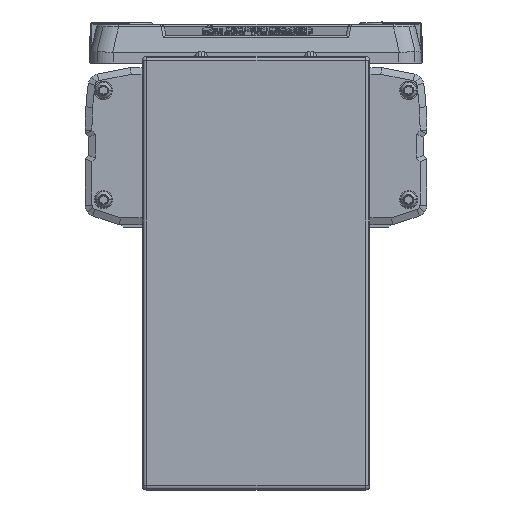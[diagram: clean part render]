
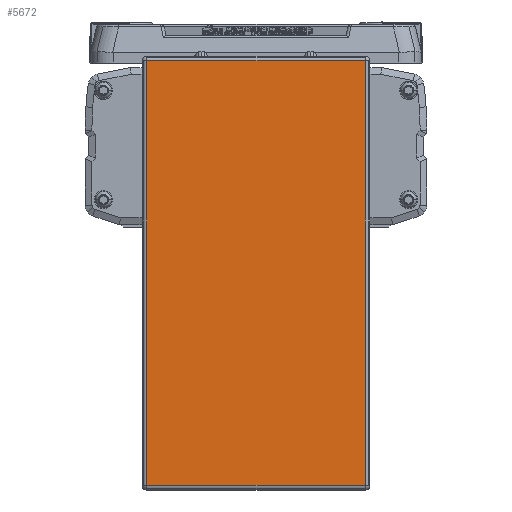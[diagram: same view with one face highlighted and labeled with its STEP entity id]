
A CAD part, left-side view. The second image highlights one B-rep face of the part: STEP entity #5672.
In plain terms, the highlighted planar face has unit normal (-1, 0, 0).
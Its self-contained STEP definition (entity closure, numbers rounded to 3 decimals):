
#5672=ADVANCED_FACE('',(#11921),#11922,.T.);
#11921=FACE_OUTER_BOUND('',#20199,.T.);
#11922=PLANE('',#20200);
#20199=EDGE_LOOP('',(#36287,#36288,#36289,#36290));
#20200=AXIS2_PLACEMENT_3D('',#36291,#36292,#36293);
#36287=ORIENTED_EDGE('',*,*,#42662,.F.);
#36288=ORIENTED_EDGE('',*,*,#43161,.F.);
#36289=ORIENTED_EDGE('',*,*,#48522,.F.);
#36290=ORIENTED_EDGE('',*,*,#48075,.F.);
#36291=CARTESIAN_POINT('',(-45.,0.,-64.2));
#36292=DIRECTION('',(-1.0,0.,0.));
#36293=DIRECTION('',(0.,1.0,0.));
#42662=EDGE_CURVE('',#50912,#50914,#50915,.T.);
#43161=EDGE_CURVE('',#51792,#50912,#51794,.T.);
#48075=EDGE_CURVE('',#50914,#50042,#59126,.T.);
#48522=EDGE_CURVE('',#50042,#51792,#59658,.T.);
#50042=VERTEX_POINT('',#61426);
#50912=VERTEX_POINT('',#62608);
#50914=VERTEX_POINT('',#62610);
#50915=LINE('',#62611,#62612);
#51792=VERTEX_POINT('',#63762);
#51794=LINE('',#63764,#63765);
#59126=LINE('',#74597,#74598);
#59658=LINE('',#75482,#75483);
#61426=CARTESIAN_POINT('',(-45.,-48.,-157.4));
#62608=CARTESIAN_POINT('',(-45.,48.,29.));
#62610=CARTESIAN_POINT('',(-45.,-48.,29.));
#62611=CARTESIAN_POINT('',(-45.,0.,29.));
#62612=VECTOR('',#77977,10.0);
#63762=CARTESIAN_POINT('',(-45.,48.,-157.4));
#63764=CARTESIAN_POINT('',(-45.,48.,-64.2));
#63765=VECTOR('',#78705,10.0);
#74597=CARTESIAN_POINT('',(-45.,-48.,-64.2));
#74598=VECTOR('',#85175,10.0);
#75482=CARTESIAN_POINT('',(-45.,0.,-157.4));
#75483=VECTOR('',#85653,10.0);
#77977=DIRECTION('',(0.0,-1.0,0.));
#78705=DIRECTION('',(0.,0.,1.0));
#85175=DIRECTION('',(0.,0.,-1.0));
#85653=DIRECTION('',(0.0,1.0,0.));
